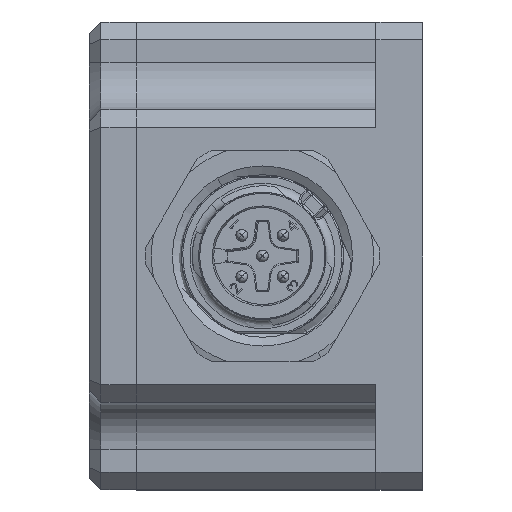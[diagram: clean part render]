
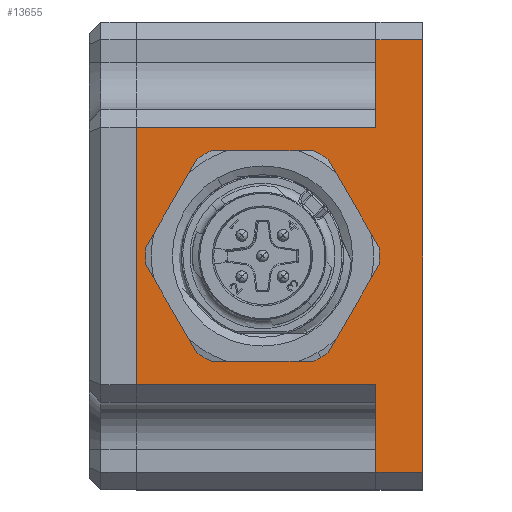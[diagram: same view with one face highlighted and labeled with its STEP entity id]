
A CAD part, left-side view. The second image highlights one B-rep face of the part: STEP entity #13655.
In plain terms, the highlighted planar face has unit normal (-1, 0, 0).
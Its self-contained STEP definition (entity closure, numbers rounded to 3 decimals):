
#1294 = AXIS2_PLACEMENT_3D ( 'NONE', #26923, #10826, #24221 ) ;
#1539 = EDGE_LOOP ( 'NONE', ( #13878, #27865, #2379, #3344, #5947, #13213, #19350, #3990 ) ) ;
#1951 = DIRECTION ( 'NONE',  ( 0., 0., -1. ) ) ;
#2080 = VECTOR ( 'NONE', #21450, 1000. ) ;
#2164 = EDGE_CURVE ( 'NONE', #13691, #5202, #18204, .T. ) ;
#2379 = ORIENTED_EDGE ( 'NONE', *, *, #18499, .T. ) ;
#2445 = EDGE_CURVE ( 'NONE', #9827, #23746, #7474, .T. ) ;
#2798 = DIRECTION ( 'NONE',  ( 0., -1., 0. ) ) ;
#3344 = ORIENTED_EDGE ( 'NONE', *, *, #17316, .T. ) ;
#3423 = ORIENTED_EDGE ( 'NONE', *, *, #5162, .T. ) ;
#3990 = ORIENTED_EDGE ( 'NONE', *, *, #21920, .T. ) ;
#4132 = CARTESIAN_POINT ( 'NONE',  ( -72.772, 19.5, -23.505 ) ) ;
#4133 = LINE ( 'NONE', #7021, #27778 ) ;
#5158 = ORIENTED_EDGE ( 'NONE', *, *, #5588, .T. ) ;
#5162 = EDGE_CURVE ( 'NONE', #6227, #25442, #27028, .T. ) ;
#5202 = VERTEX_POINT ( 'NONE', #7724 ) ;
#5588 = EDGE_CURVE ( 'NONE', #5202, #6227, #17689, .T. ) ;
#5609 = CARTESIAN_POINT ( 'NONE',  ( -72.772, 5.9, -40. ) ) ;
#5947 = ORIENTED_EDGE ( 'NONE', *, *, #19027, .T. ) ;
#6026 = CARTESIAN_POINT ( 'NONE',  ( -72.772, 23.5, -9. ) ) ;
#6227 = VERTEX_POINT ( 'NONE', #9632 ) ;
#6268 = VERTEX_POINT ( 'NONE', #6026 ) ;
#6801 = LINE ( 'NONE', #26831, #21134 ) ;
#6889 = CARTESIAN_POINT ( 'NONE',  ( -72.772, 3., -38.5 ) ) ;
#7021 = CARTESIAN_POINT ( 'NONE',  ( -72.772, 23.5, -40. ) ) ;
#7474 = LINE ( 'NONE', #27667, #18176 ) ;
#7580 = DIRECTION ( 'NONE',  ( 1., 0., 0. ) ) ;
#7724 = CARTESIAN_POINT ( 'NONE',  ( -72.772, 19.5, -16.495 ) ) ;
#8002 = DIRECTION ( 'NONE',  ( 0., 0., -1. ) ) ;
#8057 = VECTOR ( 'NONE', #8002, 1000. ) ;
#8336 = VERTEX_POINT ( 'NONE', #17187 ) ;
#8375 = VERTEX_POINT ( 'NONE', #14987 ) ;
#8510 = AXIS2_PLACEMENT_3D ( 'NONE', #18280, #9105, #29531 ) ;
#8626 = PLANE ( 'NONE',  #1294 ) ;
#8700 = VERTEX_POINT ( 'NONE', #8983 ) ;
#8775 = LINE ( 'NONE', #17999, #18787 ) ;
#8876 = FACE_BOUND ( 'NONE', #17818, .T. ) ;
#8916 = DIRECTION ( 'NONE',  ( 0., 0., -1. ) ) ;
#8983 = CARTESIAN_POINT ( 'NONE',  ( -72.772, 3., -9. ) ) ;
#9105 = DIRECTION ( 'NONE',  ( 1., 0., 0. ) ) ;
#9632 = CARTESIAN_POINT ( 'NONE',  ( -72.772, 5.9, -16.495 ) ) ;
#9827 = VERTEX_POINT ( 'NONE', #6889 ) ;
#10233 = DIRECTION ( 'NONE',  ( 0., 0., 1. ) ) ;
#10469 = CARTESIAN_POINT ( 'NONE',  ( -72.772, 3., -1.5 ) ) ;
#10826 = DIRECTION ( 'NONE',  ( -1., 0., 0. ) ) ;
#11499 = DIRECTION ( 'NONE',  ( 0., 0., 1. ) ) ;
#11542 = CARTESIAN_POINT ( 'NONE',  ( -72.772, 5.9, -23.505 ) ) ;
#11966 = CARTESIAN_POINT ( 'NONE',  ( -72.772, 3., -40. ) ) ;
#12675 = VERTEX_POINT ( 'NONE', #10469 ) ;
#13180 = EDGE_CURVE ( 'NONE', #8700, #6268, #27867, .T. ) ;
#13213 = ORIENTED_EDGE ( 'NONE', *, *, #13180, .T. ) ;
#13655 = ADVANCED_FACE ( 'NONE', ( #26038, #8876 ), #8626, .T. ) ;
#13691 = VERTEX_POINT ( 'NONE', #4132 ) ;
#13878 = ORIENTED_EDGE ( 'NONE', *, *, #27051, .T. ) ;
#14171 = CARTESIAN_POINT ( 'NONE',  ( -72.772, 3., -31. ) ) ;
#14841 = VERTEX_POINT ( 'NONE', #14171 ) ;
#14987 = CARTESIAN_POINT ( 'NONE',  ( -72.772, 23.5, -31. ) ) ;
#15472 = CARTESIAN_POINT ( 'NONE',  ( -72.772, -1., -1.5 ) ) ;
#16552 = ORIENTED_EDGE ( 'NONE', *, *, #24320, .T. ) ;
#16664 = DIRECTION ( 'NONE',  ( 0., 0., -1. ) ) ;
#16769 = LINE ( 'NONE', #18198, #23194 ) ;
#17187 = CARTESIAN_POINT ( 'NONE',  ( -72.772, -1., -1.5 ) ) ;
#17194 = ORIENTED_EDGE ( 'NONE', *, *, #2164, .T. ) ;
#17316 = EDGE_CURVE ( 'NONE', #8336, #12675, #23730, .T. ) ;
#17689 = CIRCLE ( 'NONE', #29081, 7.65 ) ;
#17818 = EDGE_LOOP ( 'NONE', ( #16552, #17194, #5158, #3423 ) ) ;
#17999 = CARTESIAN_POINT ( 'NONE',  ( -72.772, -1., -31. ) ) ;
#18176 = VECTOR ( 'NONE', #23039, 1000. ) ;
#18198 = CARTESIAN_POINT ( 'NONE',  ( -72.772, -1., -20.833 ) ) ;
#18204 = LINE ( 'NONE', #23917, #27519 ) ;
#18280 = CARTESIAN_POINT ( 'NONE',  ( -72.772, 12.7, -20. ) ) ;
#18499 = EDGE_CURVE ( 'NONE', #23746, #8336, #16769, .T. ) ;
#18787 = VECTOR ( 'NONE', #22809, 1000. ) ;
#19027 = EDGE_CURVE ( 'NONE', #12675, #8700, #25713, .T. ) ;
#19237 = CARTESIAN_POINT ( 'NONE',  ( -72.772, -1., -9. ) ) ;
#19350 = ORIENTED_EDGE ( 'NONE', *, *, #28391, .T. ) ;
#19662 = DIRECTION ( 'NONE',  ( 0., 1., 0. ) ) ;
#21134 = VECTOR ( 'NONE', #1951, 1000. ) ;
#21188 = CARTESIAN_POINT ( 'NONE',  ( -72.772, 12.7, -20. ) ) ;
#21450 = DIRECTION ( 'NONE',  ( 0., 1., 0. ) ) ;
#21578 = CIRCLE ( 'NONE', #8510, 7.65 ) ;
#21920 = EDGE_CURVE ( 'NONE', #8375, #14841, #8775, .T. ) ;
#22809 = DIRECTION ( 'NONE',  ( 0., -1., 0. ) ) ;
#23039 = DIRECTION ( 'NONE',  ( 0., -1., 0. ) ) ;
#23194 = VECTOR ( 'NONE', #11499, 1000. ) ;
#23544 = VECTOR ( 'NONE', #16664, 1000. ) ;
#23730 = LINE ( 'NONE', #15472, #29125 ) ;
#23746 = VERTEX_POINT ( 'NONE', #29060 ) ;
#23917 = CARTESIAN_POINT ( 'NONE',  ( -72.772, 19.5, -40. ) ) ;
#24221 = DIRECTION ( 'NONE',  ( 0., 0., 1. ) ) ;
#24320 = EDGE_CURVE ( 'NONE', #25442, #13691, #21578, .T. ) ;
#25442 = VERTEX_POINT ( 'NONE', #11542 ) ;
#25713 = LINE ( 'NONE', #11966, #23544 ) ;
#26038 = FACE_OUTER_BOUND ( 'NONE', #1539, .T. ) ;
#26831 = CARTESIAN_POINT ( 'NONE',  ( -72.772, 3., -40. ) ) ;
#26923 = CARTESIAN_POINT ( 'NONE',  ( -72.772, -1., -40. ) ) ;
#27028 = LINE ( 'NONE', #5609, #8057 ) ;
#27051 = EDGE_CURVE ( 'NONE', #14841, #9827, #6801, .T. ) ;
#27519 = VECTOR ( 'NONE', #10233, 1000. ) ;
#27667 = CARTESIAN_POINT ( 'NONE',  ( -72.772, -1., -38.5 ) ) ;
#27778 = VECTOR ( 'NONE', #8916, 1000. ) ;
#27865 = ORIENTED_EDGE ( 'NONE', *, *, #2445, .T. ) ;
#27867 = LINE ( 'NONE', #19237, #2080 ) ;
#28391 = EDGE_CURVE ( 'NONE', #6268, #8375, #4133, .T. ) ;
#29060 = CARTESIAN_POINT ( 'NONE',  ( -72.772, -1., -38.5 ) ) ;
#29081 = AXIS2_PLACEMENT_3D ( 'NONE', #21188, #7580, #2798 ) ;
#29125 = VECTOR ( 'NONE', #19662, 1000. ) ;
#29531 = DIRECTION ( 'NONE',  ( 0., -1., 0. ) ) ;
